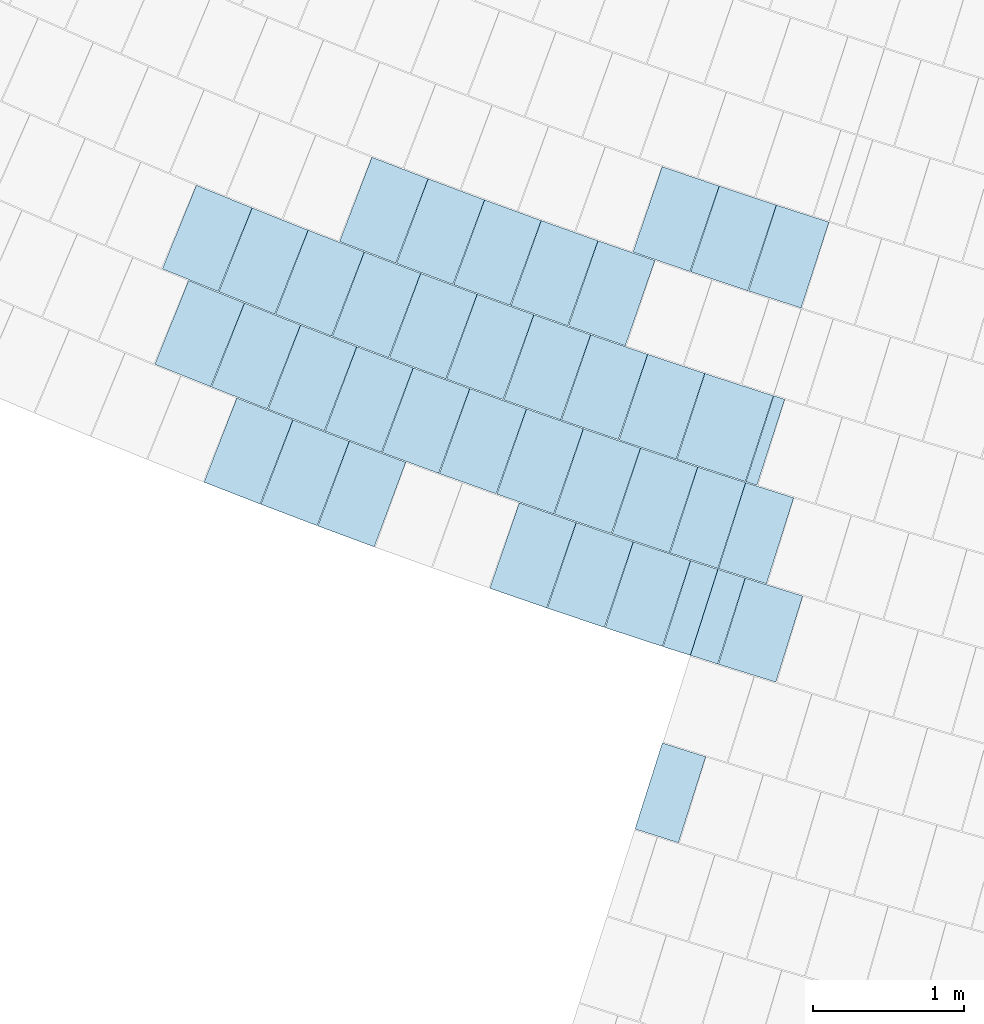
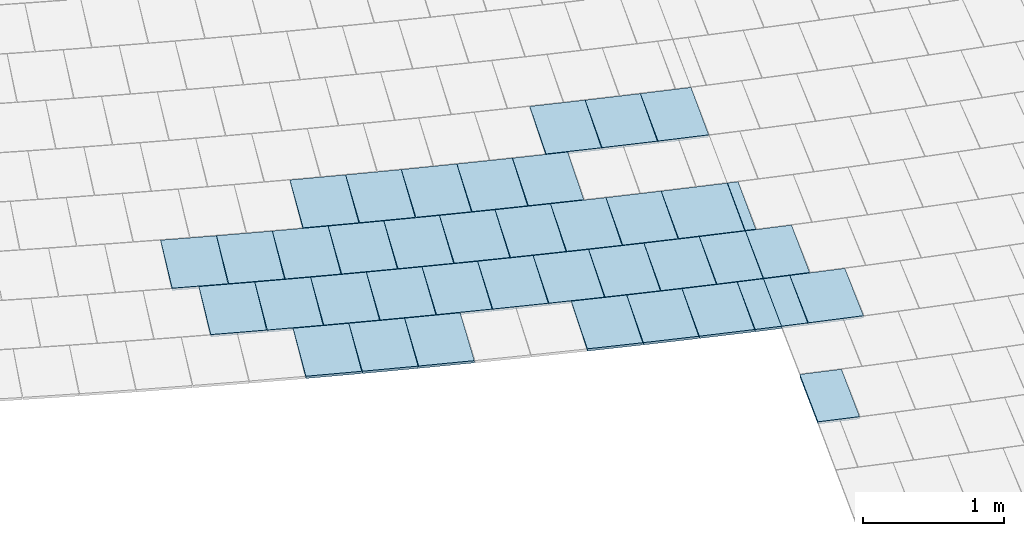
# One storey, part 98 of 438: 40 slabs.
"""IFC2X3 building model written with IfcOpenShell, lengths in millimetres."""

from ifc_helpers import new_model, entity, si_unit, converted_unit, derived_unit, direction, frame, origin, place, context, subcontext, project, spatial, polyline, outline, extrude, material, layer, layer_set, layer_usage, type_object, element, save


model = new_model("IFC2X3")

# Units and contexts
model_context = context("Model", 3, precision=0.01, world=origin(), true_north=direction((6.123031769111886e-17, 1.0)))
body_context = subcontext(model_context, "Body", "Model", "MODEL_VIEW")
ifc_project = project(units=[si_unit("LENGTHUNIT", "METRE", prefix="MILLI"), si_unit("AREAUNIT", "SQUARE_METRE"), si_unit("VOLUMEUNIT", "CUBIC_METRE"), converted_unit("PLANEANGLEUNIT", "DEGREE", entity("IfcRatioMeasure", 0.017453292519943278), si_unit("PLANEANGLEUNIT", "RADIAN"), dimensions=[0, 0, 0, 0, 0, 0, 0]), si_unit("MASSUNIT", "GRAM", prefix="KILO"), derived_unit("MASSDENSITYUNIT", [(si_unit("MASSUNIT", "GRAM", prefix="KILO"), 1), (si_unit("LENGTHUNIT", "METRE"), -3)]), derived_unit("MOMENTOFINERTIAUNIT", [(si_unit("LENGTHUNIT", "METRE"), 4)]), si_unit("TIMEUNIT", "SECOND"), si_unit("FREQUENCYUNIT", "HERTZ"), si_unit("THERMODYNAMICTEMPERATUREUNIT", "DEGREE_CELSIUS"), derived_unit("THERMALTRANSMITTANCEUNIT", [(si_unit("MASSUNIT", "GRAM", prefix="KILO"), 1), (si_unit("THERMODYNAMICTEMPERATUREUNIT", "KELVIN"), -1), (si_unit("TIMEUNIT", "SECOND"), -3)]), derived_unit("THERMALCONDUCTANCEUNIT", [(si_unit("MASSUNIT", "GRAM", prefix="KILO"), 1), (si_unit("LENGTHUNIT", "METRE"), 1), (si_unit("THERMODYNAMICTEMPERATUREUNIT", "KELVIN"), -1), (si_unit("TIMEUNIT", "SECOND"), -3)]), derived_unit("VOLUMETRICFLOWRATEUNIT", [(si_unit("LENGTHUNIT", "METRE"), 3), (si_unit("TIMEUNIT", "SECOND"), -1)]), derived_unit("MASSFLOWRATEUNIT", [(si_unit("MASSUNIT", "GRAM", prefix="KILO"), 1), (si_unit("TIMEUNIT", "SECOND"), -1)]), derived_unit("ROTATIONALFREQUENCYUNIT", [(si_unit("TIMEUNIT", "SECOND"), -1)]), si_unit("ELECTRICCURRENTUNIT", "AMPERE"), si_unit("ELECTRICVOLTAGEUNIT", "VOLT"), si_unit("POWERUNIT", "WATT"), converted_unit("FORCEUNIT", "KIP", entity("IfcRatioMeasure", 2.088543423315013e-05), si_unit("FORCEUNIT", "NEWTON"), dimensions=[1, 1, -2, 0, 0, 0, 0]), si_unit("ILLUMINANCEUNIT", "LUX"), si_unit("LUMINOUSFLUXUNIT", "LUMEN"), si_unit("LUMINOUSINTENSITYUNIT", "CANDELA"), derived_unit("USERDEFINED", [(si_unit("MASSUNIT", "GRAM", prefix="KILO"), -1), (si_unit("LENGTHUNIT", "METRE"), -2), (si_unit("TIMEUNIT", "SECOND"), 3), (si_unit("LUMINOUSFLUXUNIT", "LUMEN"), 1)]), derived_unit("USERDEFINED", [(si_unit("MASSUNIT", "GRAM", prefix="KILO"), 1), (si_unit("LENGTHUNIT", "METRE"), 3), (si_unit("TIMEUNIT", "SECOND"), -3), (si_unit("ELECTRICCURRENTUNIT", "AMPERE"), -2)]), derived_unit("USERDEFINED", [(si_unit("LENGTHUNIT", "METRE"), 2), (si_unit("TIMEUNIT", "SECOND"), -2)]), derived_unit("SOUNDPOWERUNIT", [(si_unit("MASSUNIT", "GRAM", prefix="KILO"), 1), (si_unit("LENGTHUNIT", "METRE"), 2), (si_unit("TIMEUNIT", "SECOND"), -3)]), derived_unit("SOUNDPRESSUREUNIT", [(si_unit("MASSUNIT", "GRAM", prefix="KILO"), 1), (si_unit("LENGTHUNIT", "METRE"), -1), (si_unit("TIMEUNIT", "SECOND"), -2)]), derived_unit("LINEARVELOCITYUNIT", [(si_unit("LENGTHUNIT", "METRE"), 1), (si_unit("TIMEUNIT", "SECOND"), -1)]), si_unit("PRESSUREUNIT", "PASCAL"), derived_unit("USERDEFINED", [(si_unit("LENGTHUNIT", "METRE"), -2), (si_unit("MASSUNIT", "GRAM", prefix="KILO"), 1), (si_unit("TIMEUNIT", "SECOND"), -2)]), derived_unit("LINEARFORCEUNIT", [(si_unit("MASSUNIT", "GRAM", prefix="KILO"), 1), (si_unit("LENGTHUNIT", "METRE"), 1), (si_unit("TIMEUNIT", "SECOND"), -2), (si_unit("LENGTHUNIT", "METRE"), -1)]), derived_unit("PLANARFORCEUNIT", [(si_unit("MASSUNIT", "GRAM", prefix="KILO"), 1), (si_unit("LENGTHUNIT", "METRE"), 1), (si_unit("TIMEUNIT", "SECOND"), -2), (si_unit("LENGTHUNIT", "METRE"), -2)]), derived_unit("SPECIFICHEATCAPACITYUNIT", [(si_unit("LENGTHUNIT", "METRE"), 2), (si_unit("TIMEUNIT", "SECOND"), -2), (si_unit("THERMODYNAMICTEMPERATUREUNIT", "KELVIN"), -1)]), derived_unit("VAPORPERMEABILITYUNIT", [(si_unit("TIMEUNIT", "SECOND"), 1), (si_unit("LENGTHUNIT", "METRE"), -1)]), derived_unit("DYNAMICVISCOSITYUNIT", [(si_unit("MASSUNIT", "GRAM", prefix="KILO"), 1), (si_unit("LENGTHUNIT", "METRE"), -1), (si_unit("TIMEUNIT", "SECOND"), -1)]), derived_unit("THERMALEXPANSIONCOEFFICIENTUNIT", [(si_unit("THERMODYNAMICTEMPERATUREUNIT", "KELVIN"), -1)])], contexts=[model_context])

# Site, building, storey
site_placement = place(None, frame((0.0, 0.0, 0.0), z_axis=(0.0, 0.0, 1.0), x_axis=(0.8191520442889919, 0.5735764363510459, 0.0)))
site = spatial("IfcSite", under=ifc_project, at=site_placement, Name="Default", CompositionType="ELEMENT")
building_placement = place(site_placement, origin())
building = spatial("IfcBuilding", under=site, at=building_placement, CompositionType="ELEMENT")
storey_placement = place(building_placement, origin())
storey = spatial("IfcBuildingStorey", under=building, at=storey_placement, Name="PLAN", CompositionType="ELEMENT", Elevation=0.0)

# Slabs
ifc_material = material(Name="Paint-01")
ifc_layer = layer(ifc_material, 20.00000000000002)
ifc_layer_set = layer_set([ifc_layer], Name="Floor:Slab-179:1000")
ifc_layer_usage = layer_usage(ifc_layer_set, "AXIS3", "POSITIVE", 0.0)
slab_type = type_object("IfcSlabType", Name="Floor:Slab-179:1000", PredefinedType="FLOOR", material=ifc_layer_set)
slab_1_placement = place(storey_placement, origin())
element("IfcSlab", 1, at=slab_1_placement, inside=storey, type_object=slab_type, material=ifc_layer_usage, Name="Floor:Slab-179:1000", ObjectType="Floor:Slab-179:1000", PredefinedType="FLOOR", context=body_context, shape_type="SweptSolid", body=[
    extrude(outline(polyline([(-38.62511335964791, -299.9999986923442), (38.625116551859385, -299.99999869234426), (38.62511335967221, 299.99999869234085), (-38.62511655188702, 299.99999869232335), (-38.62511335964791, -299.9999986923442)])), frame((-80835.3113448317, -98819.6066853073, 520.0), z_axis=(0.0, 0.0, -1.0), x_axis=(0.603580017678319, -0.7973024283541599, 0.0)), (0.0, 0.0, 1.0), 19.99999999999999),
])
slab_2_placement = place(storey_placement, origin())
element("IfcSlab", 2, at=slab_2_placement, inside=storey, type_object=slab_type, material=ifc_layer_usage, Name="Floor:Slab-179:1000", ObjectType="Floor:Slab-179:1000", PredefinedType="FLOOR", context=body_context, shape_type="SweptSolid", body=[
    extrude(outline(polyline([(-167.29426508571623, -299.99999869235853), (167.29426827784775, -299.99999869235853), (167.29426508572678, 299.9999986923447), (-167.29426827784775, 299.99999869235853), (-167.29426508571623, -299.99999869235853)])), frame((-81238.45251121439, -99288.0785637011, 520.0), z_axis=(0.0, 0.0, -1.0), x_axis=(0.6075767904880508, -0.7942609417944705, 0.0)), (0.0, 0.0, 1.0), 20.000000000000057),
])
slab_3_placement = place(storey_placement, origin())
element("IfcSlab", 3, at=slab_3_placement, inside=storey, type_object=slab_type, material=ifc_layer_usage, Name="Floor:Slab-179:1000", ObjectType="Floor:Slab-179:1000", PredefinedType="FLOOR", context=body_context, shape_type="SweptSolid", body=[
    extrude(outline(polyline([(-200.00000134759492, -299.99999869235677), (200.0000045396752, -299.99999869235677), (200.00000134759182, 299.99999869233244), (-200.0000045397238, 299.999998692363), (-200.00000134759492, -299.99999869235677)])), frame((-81582.9462953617, -99832.46194809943, 520.0), z_axis=(0.0, 0.0, -1.0), x_axis=(0.611465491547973, -0.7912710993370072, 0.0)), (0.0, 0.0, 1.0), 20.000000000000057),
])
slab_4_placement = place(storey_placement, origin())
element("IfcSlab", 4, at=slab_4_placement, inside=storey, type_object=slab_type, material=ifc_layer_usage, Name="Floor:Slab-179:1000", ObjectType="Floor:Slab-179:1000", PredefinedType="FLOOR", context=body_context, shape_type="SweptSolid", body=[
    extrude(outline(polyline([(-95.19024217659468, -299.999998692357), (95.19024536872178, -299.999998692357), (95.1902421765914, 299.9999986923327), (-95.19024536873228, 299.9999986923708), (-95.19024217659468, -299.999998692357)])), frame((-81764.2702992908, -99596.6027088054, 520.0), z_axis=(0.0, 0.0, -1.0), x_axis=(0.6053424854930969, -0.7959651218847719, 0.0)), (0.0, 0.0, 1.0), 20.000000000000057),
])
slab_5_placement = place(storey_placement, origin())
element("IfcSlab", 5, at=slab_5_placement, inside=storey, type_object=slab_type, material=ifc_layer_usage, Name="Floor:Slab-179:1000", ObjectType="Floor:Slab-179:1000", PredefinedType="FLOOR", context=body_context, shape_type="SweptSolid", body=[
    extrude(outline(polyline([(-151.14666436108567, -299.99999869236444), (151.14666755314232, -299.9999986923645), (151.14666436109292, 299.9999986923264), (-151.14666755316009, 299.9999986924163), (-151.14666436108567, -299.99999869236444)])), frame((-82692.88753812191, -100374.0650343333, 520.0), z_axis=(0.0, 0.0, -1.0), x_axis=(0.6070217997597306, -0.7946851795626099, 0.0)), (0.0, 0.0, 1.0), 20.000000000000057),
])
slab_6_placement = place(storey_placement, origin())
element("IfcSlab", 6, at=slab_6_placement, inside=storey, type_object=slab_type, material=ifc_layer_usage, Name="Floor:Slab-179:1000", ObjectType="Floor:Slab-179:1000", PredefinedType="FLOOR", context=body_context, shape_type="SweptSolid", body=[
    extrude(outline(polyline([(-299.9999976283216, -200.00000294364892), (300.0, -200.00000294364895), (299.9999976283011, 200.00000294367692), (-300.0, 200.0000029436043), (-299.9999976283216, -200.00000294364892)])), frame((-80477.3365945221, -97275.63147529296, 520.0), z_axis=(0.0, 0.0, -1.0), x_axis=(-0.8075459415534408, -0.5898046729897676, 0.0)), (0.0, 0.0, 1.0), 20.000000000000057),
])
slab_7_placement = place(storey_placement, origin())
element("IfcSlab", 7, at=slab_7_placement, inside=storey, type_object=slab_type, material=ifc_layer_usage, Name="Floor:Slab-179:1000", ObjectType="Floor:Slab-179:1000", PredefinedType="FLOOR", context=body_context, shape_type="SweptSolid", body=[
    extrude(outline(polyline([(-299.99999762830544, -200.0000029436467), (300.0, -200.00000294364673), (299.99999762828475, 200.0000029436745), (-300.0, 200.00000294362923), (-299.99999762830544, -200.0000029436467)])), frame((-80238.67159151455, -97599.6447481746, 520.0), z_axis=(0.0, 0.0, -1.0), x_axis=(-0.8027462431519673, -0.5963207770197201, 0.0)), (0.0, 0.0, 1.0), 20.000000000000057),
])
slab_8_placement = place(storey_placement, origin())
element("IfcSlab", 8, at=slab_8_placement, inside=storey, type_object=slab_type, material=ifc_layer_usage, Name="Floor:Slab-179:1000", ObjectType="Floor:Slab-179:1000", PredefinedType="FLOOR", context=body_context, shape_type="SweptSolid", body=[
    extrude(outline(polyline([(-299.99999771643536, -183.4419543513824), (300.0, -183.4419543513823), (299.9999977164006, 183.4419543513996), (-300.0, 183.44195435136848), (-299.99999771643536, -183.4419543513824)])), frame((-80007.37334068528, -97908.50434196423, 520.0), z_axis=(0.0, 0.0, -1.0), x_axis=(-0.7978939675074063, -0.6027978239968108, 0.0)), (0.0, 0.0, 1.0), 20.000000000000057),
])
slab_9_placement = place(storey_placement, origin())
element("IfcSlab", 9, at=slab_9_placement, inside=storey, type_object=slab_type, material=ifc_layer_usage, Name="Floor:Slab-179:1000", ObjectType="Floor:Slab-179:1000", PredefinedType="FLOOR", context=body_context, shape_type="SweptSolid", body=[
    extrude(outline(polyline([(-299.9999976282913, -200.0000029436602), (300.0, -200.0000029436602), (299.9999976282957, 200.00000294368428), (-300.0, 200.00000294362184), (-299.9999976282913, -200.0000029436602)])), frame((-81805.67321093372, -96447.12514536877, 520.0), z_axis=(0.0, 0.0, -1.0), x_axis=(-0.8242312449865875, -0.5662533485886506, 0.0)), (0.0, 0.0, 1.0), 19.99999999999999),
])
slab_10_placement = place(storey_placement, origin())
element("IfcSlab", 10, at=slab_10_placement, inside=storey, type_object=slab_type, material=ifc_layer_usage, Name="Floor:Slab-179:1000", ObjectType="Floor:Slab-179:1000", PredefinedType="FLOOR", context=body_context, shape_type="SweptSolid", body=[
    extrude(outline(polyline([(-200.00000453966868, -299.9999986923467), (200.00000134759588, -299.99999869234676), (200.00000453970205, 299.9999986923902), (-200.00000134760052, 299.99999869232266), (-200.00000453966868, -299.9999986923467)])), frame((-82032.20324432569, -96114.55009689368, 520.0), z_axis=(0.0, 0.0, -1.0), x_axis=(0.5596454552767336, -0.8287321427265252, 0.0)), (0.0, 0.0, 1.0), 20.000000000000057),
])
slab_11_placement = place(storey_placement, origin())
element("IfcSlab", 11, at=slab_11_placement, inside=storey, type_object=slab_type, material=ifc_layer_usage, Name="Floor:Slab-179:1000", ObjectType="Floor:Slab-179:1000", PredefinedType="FLOOR", context=body_context, shape_type="SweptSolid", body=[
    extrude(outline(polyline([(-299.9999976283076, -200.00000294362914), (300.0, -200.00000294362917), (299.9999976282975, 200.00000294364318), (-300.0, 200.00000294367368), (-299.9999976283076, -200.00000294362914)])), frame((-81110.23154431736, -97433.835313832, 520.0), z_axis=(0.0, 0.0, -1.0), x_axis=(-0.810413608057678, -0.5858581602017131, 0.0)), (0.0, 0.0, 1.0), 20.000000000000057),
])
slab_12_placement = place(storey_placement, origin())
element("IfcSlab", 12, at=slab_12_placement, inside=storey, type_object=slab_type, material=ifc_layer_usage, Name="Floor:Slab-179:1000", ObjectType="Floor:Slab-179:1000", PredefinedType="FLOOR", context=body_context, shape_type="SweptSolid", body=[
    extrude(outline(polyline([(-299.999997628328, -200.0000029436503), (300.0, -200.00000294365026), (299.99999762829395, 200.00000294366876), (-300.0, 200.00000294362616), (-299.999997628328, -200.0000029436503)])), frame((-81576.49145516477, -96777.87843971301, 520.0), z_axis=(0.0, 0.0, -1.0), x_axis=(-0.8196776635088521, -0.572825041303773, 0.0)), (0.0, 0.0, 1.0), 20.000000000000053),
])
slab_13_placement = place(storey_placement, origin())
element("IfcSlab", 13, at=slab_13_placement, inside=storey, type_object=slab_type, material=ifc_layer_usage, Name="Floor:Slab-179:1000", ObjectType="Floor:Slab-179:1000", PredefinedType="FLOOR", context=body_context, shape_type="SweptSolid", body=[
    extrude(outline(polyline([(-299.9999976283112, -200.00000294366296), (300.0, -200.00000294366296), (299.9999976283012, 200.0000029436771), (-300.0, 200.00000294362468), (-299.9999976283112, -200.00000294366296)])), frame((-81344.67262683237, -97106.78883743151, 520.0), z_axis=(0.0, 0.0, -1.0), x_axis=(-0.815071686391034, -0.5793601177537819, 0.0)), (0.0, 0.0, 1.0), 20.000000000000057),
])
slab_14_placement = place(storey_placement, origin())
element("IfcSlab", 14, at=slab_14_placement, inside=storey, type_object=slab_type, material=ifc_layer_usage, Name="Floor:Slab-179:1000", ObjectType="Floor:Slab-179:1000", PredefinedType="FLOOR", context=body_context, shape_type="SweptSolid", body=[
    extrude(outline(polyline([(-200.0000045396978, -299.9999986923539), (200.00000134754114, -299.9999986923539), (200.0000045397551, 299.9999986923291), (-200.0000013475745, 299.9999986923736), (-200.0000045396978, -299.9999986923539)])), frame((-83100.16544746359, -95595.60660790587, 520.0), z_axis=(0.0, 0.0, -1.0), x_axis=(0.5428097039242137, -0.8398557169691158, 0.0)), (0.0, 0.0, 1.0), 20.000000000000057),
])
slab_15_placement = place(storey_placement, origin())
element("IfcSlab", 15, at=slab_15_placement, inside=storey, type_object=slab_type, material=ifc_layer_usage, Name="Floor:Slab-179:1000", ObjectType="Floor:Slab-179:1000", PredefinedType="FLOOR", context=body_context, shape_type="SweptSolid", body=[
    extrude(outline(polyline([(-200.00000453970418, -299.9999986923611), (200.00000134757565, -299.9999986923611), (200.00000453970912, 299.9999986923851), (-200.0000013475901, 299.9999986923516), (-200.00000453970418, -299.9999986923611)])), frame((-82880.42380419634, -95932.67133074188, 520.0), z_axis=(0.0, 0.0, -1.0), x_axis=(0.5494272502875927, -0.8355415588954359, 0.0)), (0.0, 0.0, 1.0), 20.000000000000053),
])
slab_16_placement = place(storey_placement, origin())
element("IfcSlab", 16, at=slab_16_placement, inside=storey, type_object=slab_type, material=ifc_layer_usage, Name="Floor:Slab-179:1000", ObjectType="Floor:Slab-179:1000", PredefinedType="FLOOR", context=body_context, shape_type="SweptSolid", body=[
    extrude(outline(polyline([(-200.00000453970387, -299.99999869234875), (200.00000134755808, -299.99999869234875), (200.00000453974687, 299.99999869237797), (-200.00000134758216, 299.9999986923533), (-200.00000453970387, -299.99999869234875)])), frame((-82432.98698530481, -96601.5407190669, 520.0), z_axis=(0.0, 0.0, -1.0), x_axis=(0.5625590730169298, -0.8267570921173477, 0.0)), (0.0, 0.0, 1.0), 20.000000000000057),
])
slab_17_placement = place(storey_placement, origin())
element("IfcSlab", 17, at=slab_17_placement, inside=storey, type_object=slab_type, material=ifc_layer_usage, Name="Floor:Slab-179:1000", ObjectType="Floor:Slab-179:1000", PredefinedType="FLOOR", context=body_context, shape_type="SweptSolid", body=[
    extrude(outline(polyline([(-299.99999762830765, -200.00000294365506), (300.0, -200.00000294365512), (299.99999762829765, 200.00000294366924), (-300.0, 200.00000294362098), (-299.99999762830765, -200.00000294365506)])), frame((-81975.03880314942, -97263.25774922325, 520.0), z_axis=(0.0, 0.0, -1.0), x_axis=(-0.8177662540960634, -0.5755504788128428, 0.0)), (0.0, 0.0, 1.0), 20.000000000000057),
])
slab_18_placement = place(storey_placement, origin())
element("IfcSlab", 18, at=slab_18_placement, inside=storey, type_object=slab_type, material=ifc_layer_usage, Name="Floor:Slab-179:1000", ObjectType="Floor:Slab-179:1000", PredefinedType="FLOOR", context=body_context, shape_type="SweptSolid", body=[
    extrude(outline(polyline([(-299.9999976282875, -200.0000029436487), (300.0, -200.0000029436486), (299.9999976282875, 200.0000029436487), (-300.0, 200.00000294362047), (-299.9999976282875, -200.0000029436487)])), frame((-81742.15857075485, -97591.38244278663, 520.0), z_axis=(0.0, 0.0, -1.0), x_axis=(-0.8131941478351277, -0.5819925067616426, 0.0)), (0.0, 0.0, 1.0), 19.99999999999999),
])
slab_19_placement = place(storey_placement, origin())
element("IfcSlab", 19, at=slab_19_placement, inside=storey, type_object=slab_type, material=ifc_layer_usage, Name="Floor:Slab-179:1000", ObjectType="Floor:Slab-179:1000", PredefinedType="FLOOR", context=body_context, shape_type="SweptSolid", body=[
    extrude(outline(polyline([(-299.9999976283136, -200.00000294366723), (300.0, -200.00000294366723), (299.99999762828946, 200.00000294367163), (-300.0, 200.00000294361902), (-299.9999976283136, -200.00000294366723)])), frame((-82205.31973147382, -96933.3036445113, 520.0), z_axis=(0.0, 0.0, -1.0), x_axis=(-0.8222873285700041, -0.5690725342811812, 0.0)), (0.0, 0.0, 1.0), 20.000000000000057),
])
slab_20_placement = place(storey_placement, origin())
element("IfcSlab", 20, at=slab_20_placement, inside=storey, type_object=slab_type, material=ifc_layer_usage, Name="Floor:Slab-179:1000", ObjectType="Floor:Slab-179:1000", PredefinedType="FLOOR", context=body_context, shape_type="SweptSolid", body=[
    extrude(outline(polyline([(-200.00000453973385, -299.99999869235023), (200.00000134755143, -299.9999986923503), (200.00000453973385, 299.99999869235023), (-200.00000134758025, 299.999998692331), (-200.00000453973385, -299.99999869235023)])), frame((-82658.02635732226, -96267.98967618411, 520.0), z_axis=(0.0, 0.0, -1.0), x_axis=(0.5560105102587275, -0.8311752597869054, 0.0)), (0.0, 0.0, 1.0), 20.000000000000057),
])
slab_21_placement = place(storey_placement, origin())
element("IfcSlab", 21, at=slab_21_placement, inside=storey, type_object=slab_type, material=ifc_layer_usage, Name="Floor:Slab-179:1000", ObjectType="Floor:Slab-179:1000", PredefinedType="FLOOR", context=body_context, shape_type="SweptSolid", body=[
    extrude(outline(polyline([(-299.9999976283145, -200.00000294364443), (300.0, -200.0000029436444), (299.9999976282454, 200.00000294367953), (-300.0, 200.00000294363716), (-299.9999976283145, -200.00000294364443)])), frame((-81268.6584855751, -98242.06180689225, 520.0), z_axis=(0.0, 0.0, -1.0), x_axis=(-0.8038979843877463, -0.5947672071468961, 0.0)), (0.0, 0.0, 1.0), 19.99999999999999),
])
slab_22_placement = place(storey_placement, origin())
element("IfcSlab", 22, at=slab_22_placement, inside=storey, type_object=slab_type, material=ifc_layer_usage, Name="Floor:Slab-179:1000", ObjectType="Floor:Slab-179:1000", PredefinedType="FLOOR", context=body_context, shape_type="SweptSolid", body=[
    extrude(outline(polyline([(-299.99999762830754, -200.00000294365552), (300.0, -200.00000294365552), (299.99999762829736, 200.00000294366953), (-300.0, 200.0000029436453), (-299.99999762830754, -200.00000294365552)])), frame((-81506.69356692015, -97917.65724894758, 520.0), z_axis=(0.0, 0.0, -1.0), x_axis=(-0.8085712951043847, -0.5883982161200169, 0.0)), (0.0, 0.0, 1.0), 20.000000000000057),
])
slab_23_placement = place(storey_placement, origin())
element("IfcSlab", 23, at=slab_23_placement, inside=storey, type_object=slab_type, material=ifc_layer_usage, Name="Floor:Slab-179:1000", ObjectType="Floor:Slab-179:1000", PredefinedType="FLOOR", context=body_context, shape_type="SweptSolid", body=[
    extrude(outline(polyline([(-299.9999974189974, -239.3443465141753), (300.0, -239.3443465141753), (299.99999741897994, 239.34434651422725), (-300.0, 239.34434651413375), (-299.9999974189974, -239.3443465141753)])), frame((-81004.418332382, -98596.01886903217, 520.0), z_axis=(0.0, 0.0, -1.0), x_axis=(-0.7991745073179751, -0.6010990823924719, 0.0)), (0.0, 0.0, 1.0), 20.000000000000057),
])
slab_24_placement = place(storey_placement, origin())
element("IfcSlab", 24, at=slab_24_placement, inside=storey, type_object=slab_type, material=ifc_layer_usage, Name="Floor:Slab-179:1000", ObjectType="Floor:Slab-179:1000", PredefinedType="FLOOR", context=body_context, shape_type="SweptSolid", body=[
    extrude(outline(polyline([(-200.00000453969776, -299.99999869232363), (200.00000134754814, -299.9999986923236), (200.0000045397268, 299.99999869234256), (-200.00000134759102, 299.9999986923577), (-200.00000453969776, -299.99999869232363)])), frame((-83504.0012336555, -96084.69188487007, 520.0), z_axis=(0.0, 0.0, -1.0), x_axis=(0.5459273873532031, -0.8378324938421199, 0.0)), (0.0, 0.0, 1.0), 20.000000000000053),
])
slab_25_placement = place(storey_placement, origin())
element("IfcSlab", 25, at=slab_25_placement, inside=storey, type_object=slab_type, material=ifc_layer_usage, Name="Floor:Slab-179:1000", ObjectType="Floor:Slab-179:1000", PredefinedType="FLOOR", context=body_context, shape_type="SweptSolid", body=[
    extrude(outline(polyline([(-200.00000453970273, -299.99999869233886), (200.00000134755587, -299.99999869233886), (200.00000453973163, 299.999998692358), (-200.000001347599, 299.9999986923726), (-200.00000453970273, -299.99999869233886)])), frame((-83283.03937159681, -96420.92456468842, 520.0), z_axis=(0.0, 0.0, -1.0), x_axis=(0.5524511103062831, -0.8335453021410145, 0.0)), (0.0, 0.0, 1.0), 20.000000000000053),
])
slab_26_placement = place(storey_placement, origin())
element("IfcSlab", 26, at=slab_26_placement, inside=storey, type_object=slab_type, material=ifc_layer_usage, Name="Floor:Slab-179:1000", ObjectType="Floor:Slab-179:1000", PredefinedType="FLOOR", context=body_context, shape_type="SweptSolid", body=[
    extrude(outline(polyline([(-299.9999976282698, -200.0000029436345), (300.0, -200.00000294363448), (299.99999762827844, 200.00000294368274), (-300.0, 200.00000294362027), (-299.9999976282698, -200.0000029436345)])), frame((-82604.50047502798, -97419.13036213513, 520.0), z_axis=(0.0, 0.0, -1.0), x_axis=(-0.820380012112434, -0.5718187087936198, 0.0)), (0.0, 0.0, 1.0), 20.000000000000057),
])
slab_27_placement = place(storey_placement, origin())
element("IfcSlab", 27, at=slab_27_placement, inside=storey, type_object=slab_type, material=ifc_layer_usage, Name="Floor:Slab-179:1000", ObjectType="Floor:Slab-179:1000", PredefinedType="FLOOR", context=body_context, shape_type="SweptSolid", body=[
    extrude(outline(polyline([(-200.00000453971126, -299.9999986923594), (200.00000134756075, -299.9999986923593), (200.00000453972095, 299.999998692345), (-200.00000134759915, 299.9999986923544), (-200.00000453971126, -299.9999986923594)])), frame((-83059.45951487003, -96755.42210896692, 520.0), z_axis=(0.0, 0.0, -1.0), x_axis=(0.5589411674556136, -0.8292073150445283, 0.0)), (0.0, 0.0, 1.0), 19.99999999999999),
])
slab_28_placement = place(storey_placement, origin())
element("IfcSlab", 28, at=slab_28_placement, inside=storey, type_object=slab_type, material=ifc_layer_usage, Name="Floor:Slab-179:1000", ObjectType="Floor:Slab-179:1000", PredefinedType="FLOOR", context=body_context, shape_type="SweptSolid", body=[
    extrude(outline(polyline([(-299.9999976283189, -200.00000294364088), (300.0, -200.0000029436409), (299.99999762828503, 200.00000294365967), (-300.0, 200.00000294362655), (-299.9999976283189, -200.00000294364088)])), frame((-82833.27528820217, -97088.16413376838, 520.0), z_axis=(0.0, 0.0, -1.0), x_axis=(-0.8248187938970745, -0.5653971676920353, 0.0)), (0.0, 0.0, 1.0), 20.000000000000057),
])
slab_29_placement = place(storey_placement, origin())
element("IfcSlab", 29, at=slab_29_placement, inside=storey, type_object=slab_type, material=ifc_layer_usage, Name="Floor:Slab-179:1000", ObjectType="Floor:Slab-179:1000", PredefinedType="FLOOR", context=body_context, shape_type="SweptSolid", body=[
    extrude(outline(polyline([(-299.9999976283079, -200.00000294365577), (300.0, -200.00000294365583), (299.99999762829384, 200.00000294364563), (-300.0, 200.00000294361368), (-299.9999976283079, -200.00000294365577)])), frame((-82139.23501138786, -98075.65486404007, 520.0), z_axis=(0.0, 0.0, -1.0), x_axis=(-0.8113527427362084, -0.5845568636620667, 0.0)), (0.0, 0.0, 1.0), 20.000000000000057),
])
slab_30_placement = place(storey_placement, origin())
element("IfcSlab", 30, at=slab_30_placement, inside=storey, type_object=slab_type, material=ifc_layer_usage, Name="Floor:Slab-179:1000", ObjectType="Floor:Slab-179:1000", PredefinedType="FLOOR", context=body_context, shape_type="SweptSolid", body=[
    extrude(outline(polyline([(-299.99999762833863, -200.00000294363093), (300.0, -200.0000029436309), (299.9999976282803, 200.0000029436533), (-300.0, 200.00000294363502), (-299.99999762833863, -200.00000294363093)])), frame((-82373.14901664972, -97748.30062532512, 520.0), z_axis=(0.0, 0.0, -1.0), x_axis=(-0.8158912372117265, -0.5782054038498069, 0.0)), (0.0, 0.0, 1.0), 20.000000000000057),
])
slab_31_placement = place(storey_placement, origin())
element("IfcSlab", 31, at=slab_31_placement, inside=storey, type_object=slab_type, material=ifc_layer_usage, Name="Floor:Slab-179:1000", ObjectType="Floor:Slab-179:1000", PredefinedType="FLOOR", context=body_context, shape_type="SweptSolid", body=[
    extrude(outline(polyline([(-299.9999976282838, -200.0000029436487), (300.0, -200.00000294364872), (299.9999976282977, 200.00000294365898), (-300.0, 200.00000294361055), (-299.9999976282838, -200.0000029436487)])), frame((-81902.77271372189, -98401.17312964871, 520.0), z_axis=(0.0, 0.0, -1.0), x_axis=(-0.8067648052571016, -0.590872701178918, 0.0)), (0.0, 0.0, 1.0), 20.000000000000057),
])
slab_32_placement = place(storey_placement, origin())
element("IfcSlab", 32, at=slab_32_placement, inside=storey, type_object=slab_type, material=ifc_layer_usage, Name="Floor:Slab-179:1000", ObjectType="Floor:Slab-179:1000", PredefinedType="FLOOR", context=body_context, shape_type="SweptSolid", body=[
    extrude(outline(polyline([(-299.99999762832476, -200.00000294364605), (300.0, -200.00000294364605), (299.99999762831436, 200.00000294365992), (-300.0, 200.0000029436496), (-299.99999762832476, -200.00000294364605)])), frame((-81663.77653342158, -98724.83558540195, 520.0), z_axis=(0.0, 0.0, -1.0), x_axis=(-0.8021277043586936, -0.5971525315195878, 0.0)), (0.0, 0.0, 1.0), 20.000000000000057),
])
slab_33_placement = place(storey_placement, origin())
element("IfcSlab", 33, at=slab_33_placement, inside=storey, type_object=slab_type, material=ifc_layer_usage, Name="Floor:Slab-179:1000", ObjectType="Floor:Slab-179:1000", PredefinedType="FLOOR", context=body_context, shape_type="SweptSolid", body=[
    extrude(outline(polyline([(-299.99999780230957, -167.29426668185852), (300.0, -167.29426668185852), (299.99999780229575, 167.29426668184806), (-300.0, 167.29426668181), (-299.99999780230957, -167.29426668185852)])), frame((-81441.9955440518, -99020.54158887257, 520.0), z_axis=(0.0, 0.0, -1.0), x_axis=(-0.7974417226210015, -0.6033959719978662, 0.0)), (0.0, 0.0, 1.0), 20.000000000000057),
])
slab_34_placement = place(storey_placement, origin())
element("IfcSlab", 34, at=slab_34_placement, inside=storey, type_object=slab_type, material=ifc_layer_usage, Name="Floor:Slab-179:1000", ObjectType="Floor:Slab-179:1000", PredefinedType="FLOOR", context=body_context, shape_type="SweptSolid", body=[
    extrude(outline(polyline([(-200.00000453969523, -299.9999986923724), (200.00000134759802, -299.9999986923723), (200.00000453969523, 299.9999986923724), (-200.00000134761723, 299.9999986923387), (-200.00000453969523, -299.9999986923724)])), frame((-83685.11805922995, -96908.79160680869, 520.0), z_axis=(0.0, 0.0, -1.0), x_axis=(0.5553973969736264, -0.8315850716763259, 0.0)), (0.0, 0.0, 1.0), 20.000000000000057),
])
slab_35_placement = place(storey_placement, origin())
element("IfcSlab", 35, at=slab_35_placement, inside=storey, type_object=slab_type, material=ifc_layer_usage, Name="Floor:Slab-179:1000", ObjectType="Floor:Slab-179:1000", PredefinedType="FLOOR", context=body_context, shape_type="SweptSolid", body=[
    extrude(outline(polyline([(-299.99999762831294, -200.00000294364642), (300.0, -200.00000294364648), (299.99999762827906, 200.0000029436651), (-300.0, 200.00000294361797), (-299.99999762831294, -200.00000294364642)])), frame((-83233.08675273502, -97574.43157735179, 520.0), z_axis=(0.0, 0.0, -1.0), x_axis=(-0.8229163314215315, -0.5681625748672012, 0.0)), (0.0, 0.0, 1.0), 20.000000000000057),
])
slab_36_placement = place(storey_placement, origin())
element("IfcSlab", 36, at=slab_36_placement, inside=storey, type_object=slab_type, material=ifc_layer_usage, Name="Floor:Slab-179:1000", ObjectType="Floor:Slab-179:1000", PredefinedType="FLOOR", context=body_context, shape_type="SweptSolid", body=[
    extrude(outline(polyline([(-200.00000453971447, -299.9999986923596), (200.00000134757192, -299.9999986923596), (200.00000453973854, 299.99999869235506), (-200.00000134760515, 299.99999869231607), (-200.00000453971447, -299.9999986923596)])), frame((-83460.38630988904, -97242.48348196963, 520.0), z_axis=(0.0, 0.0, -1.0), x_axis=(0.5617967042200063, -0.8272753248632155, 0.0)), (0.0, 0.0, 1.0), 20.000000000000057),
])
slab_37_placement = place(storey_placement, origin())
element("IfcSlab", 37, at=slab_37_placement, inside=storey, type_object=slab_type, material=ifc_layer_usage, Name="Floor:Slab-179:1000", ObjectType="Floor:Slab-179:1000", PredefinedType="FLOOR", context=body_context, shape_type="SweptSolid", body=[
    extrude(outline(polyline([(-299.9999976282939, -200.0000029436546), (300.0, -200.00000294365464), (299.9999976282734, 200.0000029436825), (-300.0, 200.00000294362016), (-299.9999976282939, -200.0000029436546)])), frame((-82298.48332209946, -98884.3925581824, 520.0), z_axis=(0.0, 0.0, -1.0), x_axis=(-0.8049931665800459, -0.5932840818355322, 0.0)), (0.0, 0.0, 1.0), 20.000000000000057),
])
slab_38_placement = place(storey_placement, origin())
element("IfcSlab", 38, at=slab_38_placement, inside=storey, type_object=slab_type, material=ifc_layer_usage, Name="Floor:Slab-179:1000", ObjectType="Floor:Slab-179:1000", PredefinedType="FLOOR", context=body_context, shape_type="SweptSolid", body=[
    extrude(outline(polyline([(-299.99999762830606, -200.00000294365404), (300.0, -200.00000294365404), (299.99999762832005, 200.0000029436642), (-300.0, 200.000002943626), (-299.99999762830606, -200.00000294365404)])), frame((-82535.91729397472, -98559.61611859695, 520.0), z_axis=(0.0, 0.0, -1.0), x_axis=(-0.8095465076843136, -0.5870557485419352, 0.0)), (0.0, 0.0, 1.0), 20.000000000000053),
])
slab_39_placement = place(storey_placement, origin())
element("IfcSlab", 39, at=slab_39_placement, inside=storey, type_object=slab_type, material=ifc_layer_usage, Name="Floor:Slab-179:1000", ObjectType="Floor:Slab-179:1000", PredefinedType="FLOOR", context=body_context, shape_type="SweptSolid", body=[
    extrude(outline(polyline([(-299.99999762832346, -200.00000294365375), (300.0, -200.00000294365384), (299.9999976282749, 200.00000294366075), (-300.0, 200.00000294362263), (-299.99999762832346, -200.00000294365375)])), frame((-82058.55070474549, -99207.32748326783, 520.0), z_axis=(0.0, 0.0, -1.0), x_axis=(-0.800391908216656, -0.5994770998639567, 0.0)), (0.0, 0.0, 1.0), 20.000000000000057),
])
slab_40_placement = place(storey_placement, origin())
element("IfcSlab", 40, at=slab_40_placement, inside=storey, type_object=slab_type, material=ifc_layer_usage, Name="Floor:Slab-179:1000", ObjectType="Floor:Slab-179:1000", PredefinedType="FLOOR", context=body_context, shape_type="SweptSolid", body=[
    extrude(outline(polyline([(-299.99999818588, -95.19024377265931), (299.9999991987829, -95.19024377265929), (299.99999818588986, 95.19024377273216), (-299.99999919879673, 95.1902437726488), (-299.99999818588, -95.19024377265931)])), frame((-81879.6101226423, -99445.0, 520.0), z_axis=(0.0, 0.0, -1.0), x_axis=(-0.7957430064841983, -0.6056344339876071, 0.0)), (0.0, 0.0, 1.0), 20.000000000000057),
])

save(model, "model.ifc")
